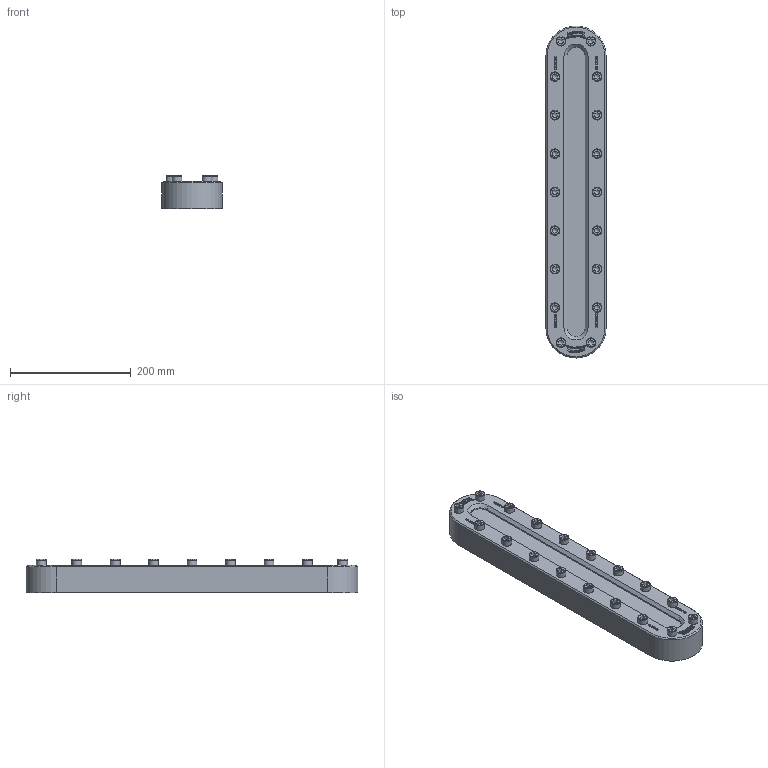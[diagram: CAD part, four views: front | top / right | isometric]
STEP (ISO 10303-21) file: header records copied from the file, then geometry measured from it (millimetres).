
FILE_DESCRIPTION(/* description */ (''),/* implementation_level */ '2;1');
FILE_NAME(/* name */ 'W:\Konstruktion_ACI\336\STEP\ACI-336-550.stp',/* time_stamp */ '2022-03-08T13:40:27+01:00',/* author */ ('Travnicek'),/* organization */ ('ACI Industriearmaturen'),/* preprocessor_version */ 'ST-DEVELOPER v16.1',/* originating_system */ 'Autodesk Inventor 2016',/* authorisation */ '');
FILE_SCHEMA (('AUTOMOTIVE_DESIGN { 1 0 10303 214 3 1 1 }'));
Length unit declared in the file: centimetre
Products named in the file (1): 336-ZB
Bounding box: 100 x 550 x 54.9 mm (x, y, z)
Volume: 2009452.6 mm3; surface area: 194324 mm2
Topology: 1 solids, 1 shells, 1450 faces, 3958 edges, 2630 vertices
Faces by surface type: plane 950, bspline 436, cylinder 24, cone 22, torus 18
Full cylindrical faces by diameter (mm): 16 x18
Entity records: 48284 total; most frequent: CARTESIAN_POINT 13797, ORIENTED_EDGE 7736, DIRECTION 4988, EDGE_CURVE 3868, LINE 2818, VECTOR 2818, VERTEX_POINT 2594, EDGE_LOOP 1624
